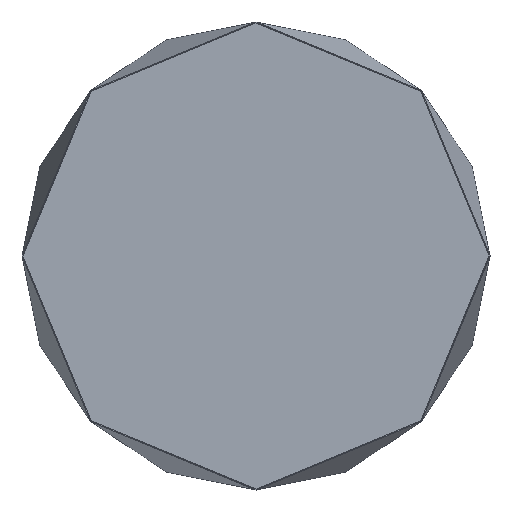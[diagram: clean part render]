
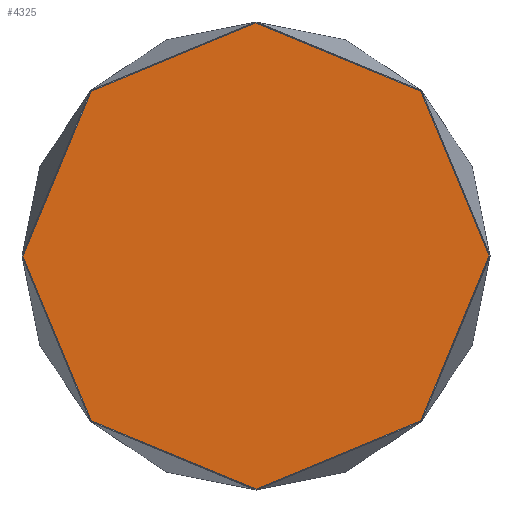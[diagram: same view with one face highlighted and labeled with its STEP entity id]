
A CAD part, front view. The second image highlights one B-rep face of the part: STEP entity #4325.
In plain terms, the highlighted planar face has unit normal (0, -1, 0).
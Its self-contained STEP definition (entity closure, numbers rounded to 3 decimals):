
#287=PLANE('',#4677);
#617=FACE_OUTER_BOUND('',#909,.T.);
#909=EDGE_LOOP('',(#3977,#3978,#3979,#3980,#3981,#3982,#3983,#3984));
#1394=LINE('',#8365,#1877);
#1398=LINE('',#8373,#1881);
#1401=LINE('',#8379,#1884);
#1404=LINE('',#8385,#1887);
#1407=LINE('',#8391,#1890);
#1410=LINE('',#8397,#1893);
#1413=LINE('',#8403,#1896);
#1416=LINE('',#8408,#1899);
#1877=VECTOR('',#5745,10.);
#1881=VECTOR('',#5751,10.);
#1884=VECTOR('',#5756,10.);
#1887=VECTOR('',#5761,10.);
#1890=VECTOR('',#5766,10.);
#1893=VECTOR('',#5771,10.);
#1896=VECTOR('',#5776,10.);
#1899=VECTOR('',#5781,10.);
#2277=VERTEX_POINT('',#8363);
#2278=VERTEX_POINT('',#8364);
#2281=VERTEX_POINT('',#8372);
#2283=VERTEX_POINT('',#8378);
#2285=VERTEX_POINT('',#8384);
#2287=VERTEX_POINT('',#8390);
#2289=VERTEX_POINT('',#8396);
#2291=VERTEX_POINT('',#8402);
#2837=EDGE_CURVE('',#2277,#2278,#1394,.T.);
#2841=EDGE_CURVE('',#2278,#2281,#1398,.T.);
#2844=EDGE_CURVE('',#2281,#2283,#1401,.T.);
#2847=EDGE_CURVE('',#2283,#2285,#1404,.T.);
#2850=EDGE_CURVE('',#2285,#2287,#1407,.T.);
#2853=EDGE_CURVE('',#2287,#2289,#1410,.T.);
#2856=EDGE_CURVE('',#2289,#2291,#1413,.T.);
#2859=EDGE_CURVE('',#2291,#2277,#1416,.T.);
#3977=ORIENTED_EDGE('',*,*,#2859,.T.);
#3978=ORIENTED_EDGE('',*,*,#2837,.T.);
#3979=ORIENTED_EDGE('',*,*,#2841,.T.);
#3980=ORIENTED_EDGE('',*,*,#2844,.T.);
#3981=ORIENTED_EDGE('',*,*,#2847,.T.);
#3982=ORIENTED_EDGE('',*,*,#2850,.T.);
#3983=ORIENTED_EDGE('',*,*,#2853,.T.);
#3984=ORIENTED_EDGE('',*,*,#2856,.T.);
#4325=ADVANCED_FACE('',(#617),#287,.F.);
#4677=AXIS2_PLACEMENT_3D('',#8411,#5785,#5786);
#5745=DIRECTION('',(0.383,0.,-0.924));
#5751=DIRECTION('',(0.924,0.,-0.383));
#5756=DIRECTION('',(0.924,0.,0.383));
#5761=DIRECTION('',(0.383,0.,0.924));
#5766=DIRECTION('',(-0.383,0.,0.924));
#5771=DIRECTION('',(-0.924,0.,0.383));
#5776=DIRECTION('',(-0.924,0.,-0.383));
#5781=DIRECTION('',(-0.383,0.,-0.924));
#5785=DIRECTION('center_axis',(0.,1.,0.));
#5786=DIRECTION('ref_axis',(-1.,0.,0.));
#8363=CARTESIAN_POINT('',(-259.,0.,0.));
#8364=CARTESIAN_POINT('',(-183.141,0.,-183.141));
#8365=CARTESIAN_POINT('',(-259.,0.,0.));
#8372=CARTESIAN_POINT('',(0.,0.,-259.));
#8373=CARTESIAN_POINT('',(-183.141,0.,-183.141));
#8378=CARTESIAN_POINT('',(183.141,0.,-183.141));
#8379=CARTESIAN_POINT('',(0.,0.,-259.));
#8384=CARTESIAN_POINT('',(259.,0.,0.));
#8385=CARTESIAN_POINT('',(183.141,0.,-183.141));
#8390=CARTESIAN_POINT('',(183.141,0.,183.141));
#8391=CARTESIAN_POINT('',(259.,0.,0.));
#8396=CARTESIAN_POINT('',(0.,0.,259.));
#8397=CARTESIAN_POINT('',(183.141,0.,183.141));
#8402=CARTESIAN_POINT('',(-183.141,0.,183.141));
#8403=CARTESIAN_POINT('',(0.,0.,259.));
#8408=CARTESIAN_POINT('',(-183.141,0.,183.141));
#8411=CARTESIAN_POINT('Origin',(0.,0.,0.));
